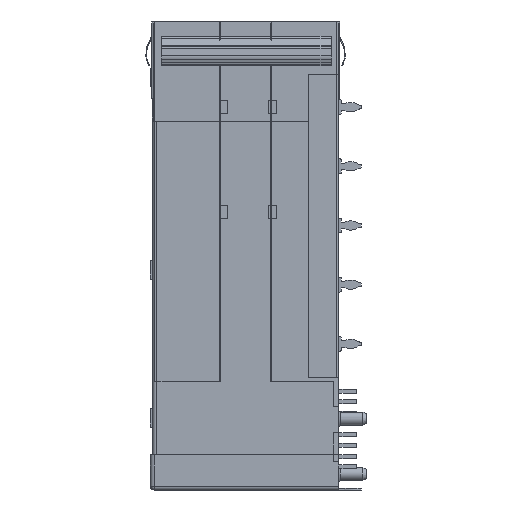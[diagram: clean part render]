
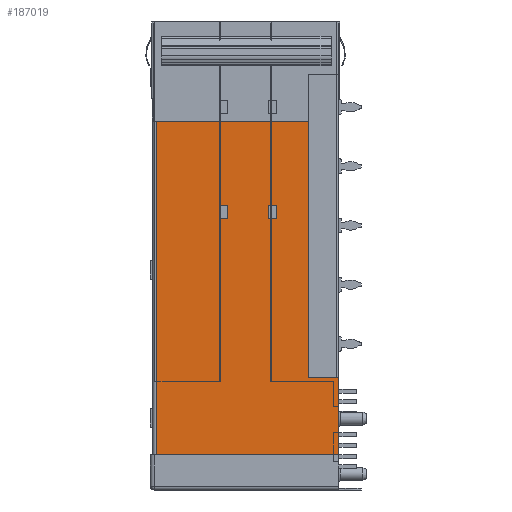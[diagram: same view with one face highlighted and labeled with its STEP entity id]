
A CAD part, left-side view. The second image highlights one B-rep face of the part: STEP entity #187019.
In plain terms, the highlighted planar face has unit normal (-1, 0, 0).
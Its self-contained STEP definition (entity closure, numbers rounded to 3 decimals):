
#234 = CARTESIAN_POINT ( 'NONE',  ( -85.625, 24.7, -13.4 ) ) ;
#1158 = VECTOR ( 'NONE', #148915, 1000. ) ;
#4165 = VERTEX_POINT ( 'NONE', #80478 ) ;
#4971 = DIRECTION ( 'NONE',  ( 0., -1., 0. ) ) ;
#12215 = VECTOR ( 'NONE', #4971, 1000. ) ;
#12802 = VERTEX_POINT ( 'NONE', #75244 ) ;
#14004 = ORIENTED_EDGE ( 'NONE', *, *, #123524, .T. ) ;
#16814 = EDGE_CURVE ( 'NONE', #126878, #137672, #33840, .T. ) ;
#16878 = VERTEX_POINT ( 'NONE', #144624 ) ;
#19733 = CARTESIAN_POINT ( 'NONE',  ( -85.625, 4.1, -13.4 ) ) ;
#20308 = ORIENTED_EDGE ( 'NONE', *, *, #132837, .T. ) ;
#21344 = VERTEX_POINT ( 'NONE', #87824 ) ;
#23199 = DIRECTION ( 'NONE',  ( 0., 0., -1. ) ) ;
#23488 = VECTOR ( 'NONE', #121128, 1000. ) ;
#25570 = VECTOR ( 'NONE', #51398, 1000. ) ;
#29335 = VECTOR ( 'NONE', #84164, 1000. ) ;
#30920 = VECTOR ( 'NONE', #60473, 1000. ) ;
#31150 = CARTESIAN_POINT ( 'NONE',  ( -85.625, 16., -24.8 ) ) ;
#33840 = LINE ( 'NONE', #40109, #29335 ) ;
#35831 = EDGE_CURVE ( 'NONE', #85853, #110358, #135303, .T. ) ;
#36772 = CARTESIAN_POINT ( 'NONE',  ( -85.625, 0., -63.25 ) ) ;
#37883 = CARTESIAN_POINT ( 'NONE',  ( -85.625, 0., -63.25 ) ) ;
#38550 = ORIENTED_EDGE ( 'NONE', *, *, #35831, .T. ) ;
#39624 = DIRECTION ( 'NONE',  ( 0., -1., 0. ) ) ;
#40109 = CARTESIAN_POINT ( 'NONE',  ( -85.625, 0., -48.1 ) ) ;
#44145 = LINE ( 'NONE', #144130, #117180 ) ;
#44173 = VECTOR ( 'NONE', #181539, 1000. ) ;
#49023 = LINE ( 'NONE', #76285, #1158 ) ;
#50894 = VERTEX_POINT ( 'NONE', #19733 ) ;
#51398 = DIRECTION ( 'NONE',  ( 0., 0., 1. ) ) ;
#51543 = DIRECTION ( 'NONE',  ( 0., 1., 0. ) ) ;
#55376 = EDGE_CURVE ( 'NONE', #117022, #170592, #75610, .T. ) ;
#56260 = DIRECTION ( 'NONE',  ( 0., 1., 0. ) ) ;
#58740 = AXIS2_PLACEMENT_3D ( 'NONE', #37883, #183834, #96635 ) ;
#59914 = EDGE_CURVE ( 'NONE', #85853, #50894, #158276, .T. ) ;
#60473 = DIRECTION ( 'NONE',  ( 0., 0., 1. ) ) ;
#61983 = CARTESIAN_POINT ( 'NONE',  ( -85.625, 24.7, -58.5 ) ) ;
#62440 = CARTESIAN_POINT ( 'NONE',  ( -85.625, 24.7, -63.25 ) ) ;
#63548 = LINE ( 'NONE', #125211, #136552 ) ;
#66292 = CARTESIAN_POINT ( 'NONE',  ( -85.625, 9.45, -26.6 ) ) ;
#71507 = DIRECTION ( 'NONE',  ( 0., 0., 1. ) ) ;
#73211 = VECTOR ( 'NONE', #39624, 1000. ) ;
#75244 = CARTESIAN_POINT ( 'NONE',  ( -85.625, 9.45, -24.8 ) ) ;
#75610 = LINE ( 'NONE', #158272, #105249 ) ;
#75807 = FACE_OUTER_BOUND ( 'NONE', #121633, .T. ) ;
#76285 = CARTESIAN_POINT ( 'NONE',  ( -85.625, 25.2, -58.5 ) ) ;
#77619 = EDGE_CURVE ( 'NONE', #116897, #16878, #99706, .T. ) ;
#77692 = CARTESIAN_POINT ( 'NONE',  ( -85.625, 16., -24.8 ) ) ;
#77735 = LINE ( 'NONE', #141593, #73211 ) ;
#79033 = CARTESIAN_POINT ( 'NONE',  ( -85.625, 15., -24.8 ) ) ;
#79078 = CARTESIAN_POINT ( 'NONE',  ( -85.625, 25.2, -13.4 ) ) ;
#79388 = ORIENTED_EDGE ( 'NONE', *, *, #98422, .T. ) ;
#80226 = ORIENTED_EDGE ( 'NONE', *, *, #108104, .T. ) ;
#80478 = CARTESIAN_POINT ( 'NONE',  ( -85.625, 16., -24.8 ) ) ;
#80746 = VECTOR ( 'NONE', #122450, 1000. ) ;
#80752 = EDGE_LOOP ( 'NONE', ( #79388, #173890, #98598, #20308 ) ) ;
#83547 = EDGE_CURVE ( 'NONE', #21344, #116897, #63548, .T. ) ;
#83554 = ORIENTED_EDGE ( 'NONE', *, *, #83547, .T. ) ;
#84164 = DIRECTION ( 'NONE',  ( 0., 1., 0. ) ) ;
#84769 = DIRECTION ( 'NONE',  ( 0., 0., 1. ) ) ;
#85853 = VERTEX_POINT ( 'NONE', #234 ) ;
#86413 = VERTEX_POINT ( 'NONE', #188677 ) ;
#87824 = CARTESIAN_POINT ( 'NONE',  ( -85.625, 8.45, -24.8 ) ) ;
#92410 = VERTEX_POINT ( 'NONE', #177367 ) ;
#93853 = EDGE_CURVE ( 'NONE', #16878, #12802, #44145, .T. ) ;
#94016 = LINE ( 'NONE', #36772, #25570 ) ;
#95786 = CARTESIAN_POINT ( 'NONE',  ( -85.625, 16., -26.6 ) ) ;
#96304 = ORIENTED_EDGE ( 'NONE', *, *, #128823, .T. ) ;
#96635 = DIRECTION ( 'NONE',  ( 0., 0., 1. ) ) ;
#98422 = EDGE_CURVE ( 'NONE', #4165, #86413, #167284, .T. ) ;
#98598 = ORIENTED_EDGE ( 'NONE', *, *, #55376, .T. ) ;
#99706 = LINE ( 'NONE', #66292, #172628 ) ;
#104192 = EDGE_LOOP ( 'NONE', ( #80226, #83554, #124262, #121750 ) ) ;
#105249 = VECTOR ( 'NONE', #56260, 1000. ) ;
#108104 = EDGE_CURVE ( 'NONE', #12802, #21344, #77735, .T. ) ;
#109254 = ORIENTED_EDGE ( 'NONE', *, *, #59914, .F. ) ;
#110358 = VERTEX_POINT ( 'NONE', #61983 ) ;
#116897 = VERTEX_POINT ( 'NONE', #150149 ) ;
#117022 = VERTEX_POINT ( 'NONE', #167335 ) ;
#117180 = VECTOR ( 'NONE', #71507, 1000. ) ;
#118682 = ORIENTED_EDGE ( 'NONE', *, *, #16814, .T. ) ;
#121128 = DIRECTION ( 'NONE',  ( 0., 0., -1. ) ) ;
#121633 = EDGE_LOOP ( 'NONE', ( #109254, #38550, #124828, #96304, #118682, #14004 ) ) ;
#121750 = ORIENTED_EDGE ( 'NONE', *, *, #93853, .T. ) ;
#121765 = LINE ( 'NONE', #79033, #44173 ) ;
#122450 = DIRECTION ( 'NONE',  ( 0., -1., 0. ) ) ;
#123524 = EDGE_CURVE ( 'NONE', #137672, #50894, #132570, .T. ) ;
#124262 = ORIENTED_EDGE ( 'NONE', *, *, #77619, .T. ) ;
#124828 = ORIENTED_EDGE ( 'NONE', *, *, #162106, .T. ) ;
#125211 = CARTESIAN_POINT ( 'NONE',  ( -85.625, 8.45, -24.8 ) ) ;
#126878 = VERTEX_POINT ( 'NONE', #179805 ) ;
#127965 = VECTOR ( 'NONE', #84769, 1000. ) ;
#128823 = EDGE_CURVE ( 'NONE', #92410, #126878, #94016, .T. ) ;
#132570 = LINE ( 'NONE', #157330, #127965 ) ;
#132837 = EDGE_CURVE ( 'NONE', #170592, #4165, #185976, .T. ) ;
#135303 = LINE ( 'NONE', #62440, #23488 ) ;
#136552 = VECTOR ( 'NONE', #23199, 1000. ) ;
#137672 = VERTEX_POINT ( 'NONE', #171782 ) ;
#141593 = CARTESIAN_POINT ( 'NONE',  ( -85.625, 9.45, -24.8 ) ) ;
#144130 = CARTESIAN_POINT ( 'NONE',  ( -85.625, 9.45, -24.8 ) ) ;
#144624 = CARTESIAN_POINT ( 'NONE',  ( -85.625, 9.45, -26.6 ) ) ;
#148915 = DIRECTION ( 'NONE',  ( 0., -1., 0. ) ) ;
#150149 = CARTESIAN_POINT ( 'NONE',  ( -85.625, 8.45, -26.6 ) ) ;
#153230 = FACE_BOUND ( 'NONE', #104192, .T. ) ;
#157330 = CARTESIAN_POINT ( 'NONE',  ( -85.625, 4.1, -7.1 ) ) ;
#157860 = FACE_BOUND ( 'NONE', #80752, .T. ) ;
#158272 = CARTESIAN_POINT ( 'NONE',  ( -85.625, 16., -26.6 ) ) ;
#158276 = LINE ( 'NONE', #79078, #80746 ) ;
#162106 = EDGE_CURVE ( 'NONE', #110358, #92410, #49023, .T. ) ;
#163299 = EDGE_CURVE ( 'NONE', #86413, #117022, #121765, .T. ) ;
#167284 = LINE ( 'NONE', #77692, #12215 ) ;
#167335 = CARTESIAN_POINT ( 'NONE',  ( -85.625, 15., -26.6 ) ) ;
#169228 = PLANE ( 'NONE',  #58740 ) ;
#170592 = VERTEX_POINT ( 'NONE', #95786 ) ;
#171782 = CARTESIAN_POINT ( 'NONE',  ( -85.625, 4.1, -48.1 ) ) ;
#172628 = VECTOR ( 'NONE', #51543, 1000. ) ;
#173890 = ORIENTED_EDGE ( 'NONE', *, *, #163299, .T. ) ;
#177367 = CARTESIAN_POINT ( 'NONE',  ( -85.625, 0., -58.5 ) ) ;
#179805 = CARTESIAN_POINT ( 'NONE',  ( -85.625, 0., -48.1 ) ) ;
#181539 = DIRECTION ( 'NONE',  ( 0., 0., -1. ) ) ;
#183834 = DIRECTION ( 'NONE',  ( -1., 0., 0. ) ) ;
#185976 = LINE ( 'NONE', #31150, #30920 ) ;
#187019 = ADVANCED_FACE ( 'NONE', ( #153230, #157860, #75807 ), #169228, .T. ) ;
#188677 = CARTESIAN_POINT ( 'NONE',  ( -85.625, 15., -24.8 ) ) ;
